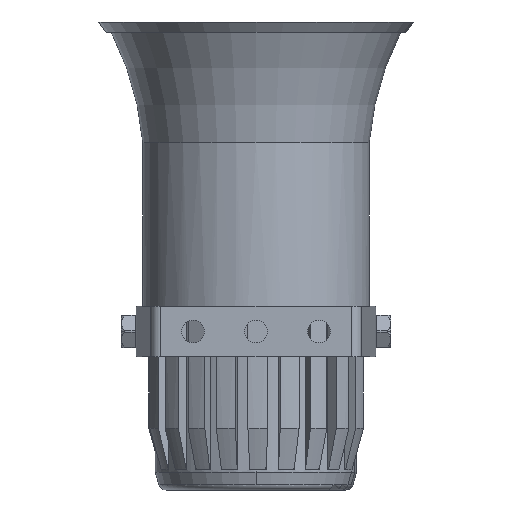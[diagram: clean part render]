
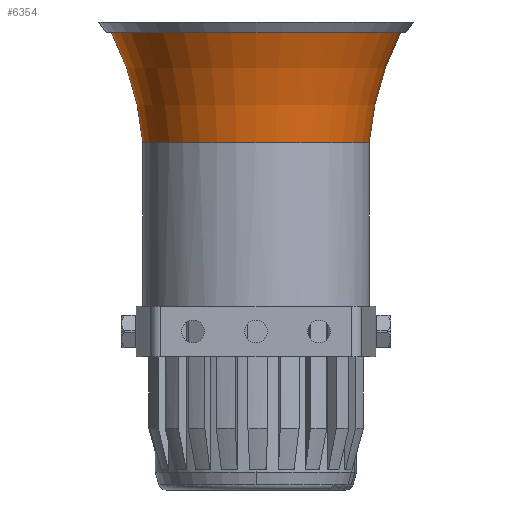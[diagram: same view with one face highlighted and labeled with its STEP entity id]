
A CAD part, front view. The second image highlights one B-rep face of the part: STEP entity #6354.
In plain terms, the highlighted toroidal (fillet/blend) face has major radius 164.565 mm and minor radius 120 mm.
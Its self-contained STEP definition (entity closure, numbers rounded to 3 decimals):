
#20 = DIRECTION ( 'NONE',  ( -1., 0., 0. ) ) ;
#27 = DIRECTION ( 'NONE',  ( -0.996, 0., 0.085 ) ) ;
#62 = DIRECTION ( 'NONE',  ( -1., 0., 0. ) ) ;
#132 = VERTEX_POINT ( 'NONE', #617 ) ;
#156 = EDGE_CURVE ( 'NONE', #2808, #132, #4576, .T. ) ;
#209 = ORIENTED_EDGE ( 'NONE', *, *, #4952, .T. ) ;
#235 = CIRCLE ( 'NONE', #2129, 120. ) ;
#236 = CARTESIAN_POINT ( 'NONE',  ( -45., 0., -47.987 ) ) ;
#577 = CARTESIAN_POINT ( 'NONE',  ( 0., 0., -4. ) ) ;
#617 = CARTESIAN_POINT ( 'NONE',  ( 57.5, 0., -4. ) ) ;
#787 = DIRECTION ( 'NONE',  ( 0.996, 0., 0.085 ) ) ;
#790 = AXIS2_PLACEMENT_3D ( 'NONE', #3428, #5305, #62 ) ;
#1191 = CIRCLE ( 'NONE', #790, 45. ) ;
#1858 = DIRECTION ( 'NONE',  ( 0., 0., 1. ) ) ;
#2129 = AXIS2_PLACEMENT_3D ( 'NONE', #7688, #6976, #27 ) ;
#2492 = VERTEX_POINT ( 'NONE', #236 ) ;
#2501 = ORIENTED_EDGE ( 'NONE', *, *, #7116, .T. ) ;
#2808 = VERTEX_POINT ( 'NONE', #3426 ) ;
#2954 = ORIENTED_EDGE ( 'NONE', *, *, #4956, .F. ) ;
#3426 = CARTESIAN_POINT ( 'NONE',  ( -57.5, 0., -4. ) ) ;
#3428 = CARTESIAN_POINT ( 'NONE',  ( 0., 0., -47.987 ) ) ;
#3659 = TOROIDAL_SURFACE ( 'NONE', #6633, 164.565, 120. ) ;
#4154 = FACE_OUTER_BOUND ( 'NONE', #4882, .T. ) ;
#4232 = DIRECTION ( 'NONE',  ( 0., 0., -1. ) ) ;
#4441 = AXIS2_PLACEMENT_3D ( 'NONE', #577, #1858, #20 ) ;
#4576 = CIRCLE ( 'NONE', #4441, 57.5 ) ;
#4579 = CARTESIAN_POINT ( 'NONE',  ( -164.565, 0., -58.195 ) ) ;
#4882 = EDGE_LOOP ( 'NONE', ( #209, #2501, #5215, #2954 ) ) ;
#4952 = EDGE_CURVE ( 'NONE', #2492, #5126, #1191, .T. ) ;
#4956 = EDGE_CURVE ( 'NONE', #2492, #2808, #5097, .T. ) ;
#5097 = CIRCLE ( 'NONE', #6159, 120. ) ;
#5126 = VERTEX_POINT ( 'NONE', #6079 ) ;
#5215 = ORIENTED_EDGE ( 'NONE', *, *, #156, .F. ) ;
#5305 = DIRECTION ( 'NONE',  ( 0., 0., 1. ) ) ;
#5462 = DIRECTION ( 'NONE',  ( 1., 0., 0. ) ) ;
#5501 = CARTESIAN_POINT ( 'NONE',  ( 0., 0., -58.195 ) ) ;
#6079 = CARTESIAN_POINT ( 'NONE',  ( 45., 0., -47.987 ) ) ;
#6159 = AXIS2_PLACEMENT_3D ( 'NONE', #4579, #7134, #787 ) ;
#6354 = ADVANCED_FACE ( 'NONE', ( #4154 ), #3659, .F. ) ;
#6633 = AXIS2_PLACEMENT_3D ( 'NONE', #5501, #4232, #5462 ) ;
#6976 = DIRECTION ( 'NONE',  ( 0., 1., 0. ) ) ;
#7116 = EDGE_CURVE ( 'NONE', #5126, #132, #235, .T. ) ;
#7134 = DIRECTION ( 'NONE',  ( 0., -1., 0. ) ) ;
#7688 = CARTESIAN_POINT ( 'NONE',  ( 164.565, 0., -58.195 ) ) ;
